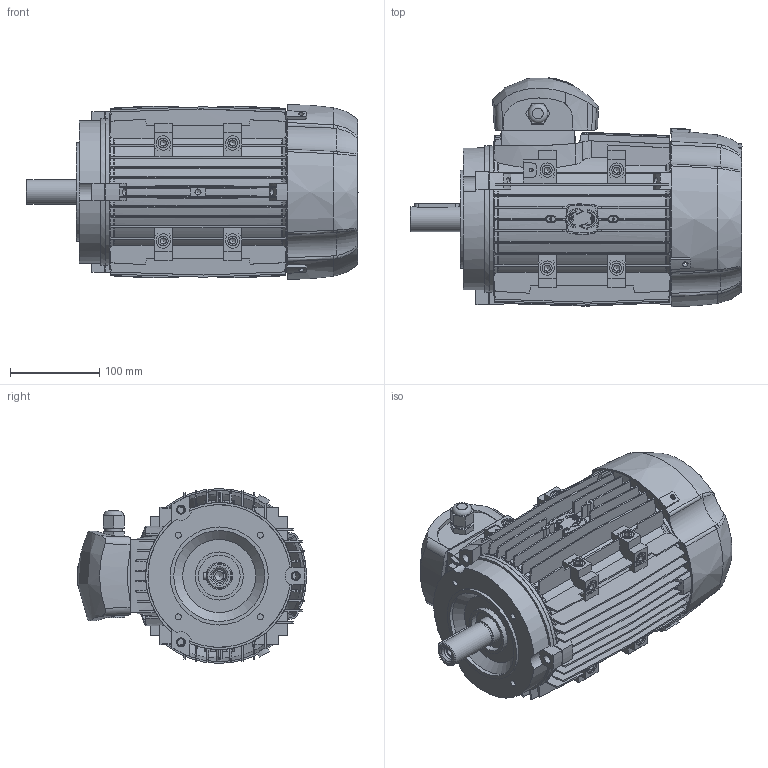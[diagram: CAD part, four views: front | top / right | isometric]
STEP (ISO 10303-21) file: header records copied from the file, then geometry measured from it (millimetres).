
FILE_DESCRIPTION((''),'2;1');
FILE_NAME('C:\xampp\htdocs\motive\source_step\M100.stp','2019-06-21T17:49:42',('apache'),(''),'Autodesk Inventor 2013','Autodesk Inventor 2013','');
FILE_SCHEMA(('AUTOMOTIVE_DESIGN { 1 0 10303 214 1 1 1 1 }'));
Length unit declared in the file: millimetre
Products named in the file (6): M100; BODY100; B14100; SH100; TBOX90_100; FCV100
Assembly tree (5 placements, depth 2):
  M100
    BODY100
    B14100
    SH100
    TBOX90_100
    FCV100
Bounding box: 372.55 x 257.25 x 196.16 mm (x, y, z)
Volume: 5580576.1 mm3; surface area: 703100.1 mm2
Topology: 5 solids, 5 shells, 2134 faces, 5929 edges, 3926 vertices
Faces by surface type: plane 853, bspline 550, cylinder 399, torus 167, cone 165
Full cylindrical faces by diameter (mm): 2.5 x4, 4.2 x11, 5 x4, 5.4 x3, 6 x3, 6.8 x17, 8 x6, 10 x4, 11 x12, 13.8 x1, 20 x1, 25 x1, 27 x1, 28 x1, 30 x2, 47 x1, 52 x1, 54 x1, 62 x2, 65 x1, 102 x1, 110 x1, 150 x1, 156 x1
Entity records: 96577 total; most frequent: CARTESIAN_POINT 45496, ORIENTED_EDGE 11536, DIRECTION 9129, EDGE_CURVE 5768, VERTEX_POINT 3883, AXIS2_PLACEMENT_3D 3369, EDGE_LOOP 2407, VECTOR 2391
